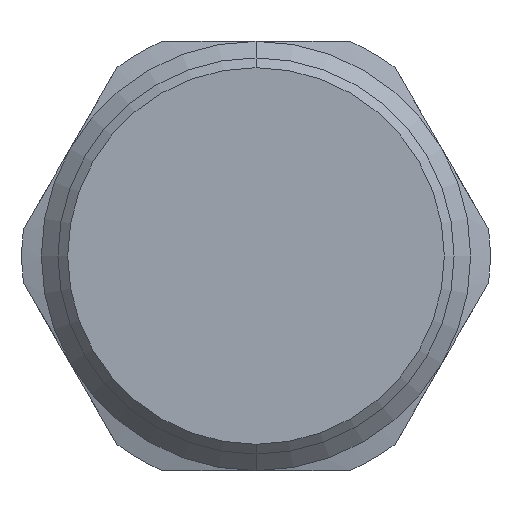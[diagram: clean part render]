
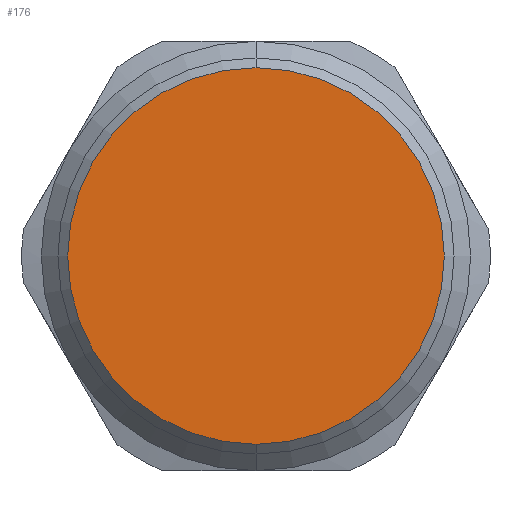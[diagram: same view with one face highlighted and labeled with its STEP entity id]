
A CAD part, front view. The second image highlights one B-rep face of the part: STEP entity #176.
In plain terms, the highlighted planar face has unit normal (0, -1, 0).
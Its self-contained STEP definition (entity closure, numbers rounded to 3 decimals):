
#151=CARTESIAN_POINT('',(0.0,-26.0,9.65));
#152=VERTEX_POINT('',#151);
#153=CARTESIAN_POINT('',(0.0,-26.0,-9.65));
#154=VERTEX_POINT('',#153);
#155=CARTESIAN_POINT('',(0.0,-26.0,0.0));
#156=DIRECTION('',(0.0,-1.0,0.0));
#157=DIRECTION('',(0.0,0.0,1.0));
#158=AXIS2_PLACEMENT_3D('',#155,#156,#157);
#159=CIRCLE('',#158,9.65);
#160=EDGE_CURVE('no 707',#152,#154,#159,.T.);
#161=ORIENTED_EDGE('',*,*,#160,.T.);
#162=CARTESIAN_POINT('',(0.0,-26.0,0.0));
#163=DIRECTION('',(0.0,-1.0,0.0));
#164=DIRECTION('',(0.0,0.0,1.0));
#165=AXIS2_PLACEMENT_3D('',#162,#163,#164);
#166=CIRCLE('',#165,9.65);
#167=EDGE_CURVE('no 711',#154,#152,#166,.T.);
#168=ORIENTED_EDGE('',*,*,#167,.T.);
#169=EDGE_LOOP('',(#161,#168));
#170=FACE_OUTER_BOUND('',#169,.T.);
#171=CARTESIAN_POINT('',(0.0,-26.0,0.0));
#172=DIRECTION('',(0.0,1.0,0.0));
#173=DIRECTION('',(0.0,0.0,1.0));
#174=AXIS2_PLACEMENT_3D('',#171,#172,#173);
#175=PLANE('',#174);
#176=ADVANCED_FACE('no 698',(#170),#175,.F.);
